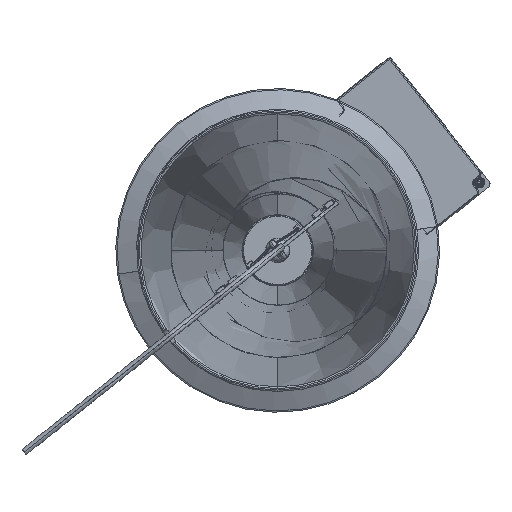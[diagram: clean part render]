
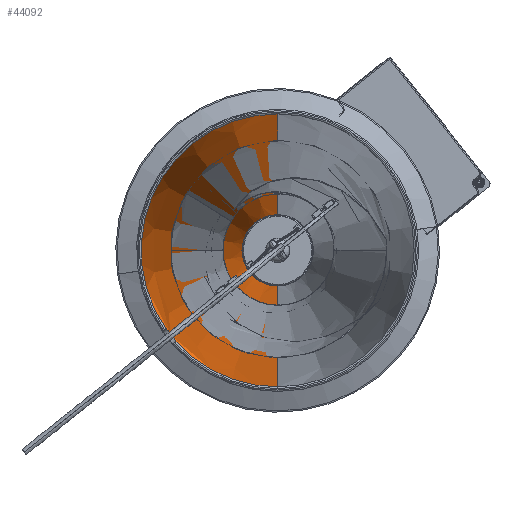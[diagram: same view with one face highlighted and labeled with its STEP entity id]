
A CAD part, front view. The second image highlights one B-rep face of the part: STEP entity #44092.
In plain terms, the highlighted conical face has half-angle 5.75 degrees and reference radius 17.712 mm.
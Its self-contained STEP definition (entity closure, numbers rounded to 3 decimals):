
#622 = CARTESIAN_POINT ( 'NONE',  ( -54.719, -347.137, -39.944 ) ) ;
#1126 = CARTESIAN_POINT ( 'NONE',  ( -53.953, -346.337, -40.84 ) ) ;
#1884 = CARTESIAN_POINT ( 'NONE',  ( -53.08, -346., -41.915 ) ) ;
#4074 = CARTESIAN_POINT ( 'NONE',  ( 0., -349.434, -67.979 ) ) ;
#4277 = CARTESIAN_POINT ( 'NONE',  ( 0., 149.77, 0. ) ) ;
#4768 = CARTESIAN_POINT ( 'NONE',  ( -55.538, -349.2, -39.16 ) ) ;
#4936 = EDGE_CURVE ( 'NONE', #14053, #18556, #7281, .T. ) ;
#5020 = LINE ( 'NONE', #8683, #31544 ) ;
#5201 = EDGE_CURVE ( 'NONE', #14053, #19736, #43659, .T. ) ;
#5204 = DIRECTION ( 'NONE',  ( 0., 0., 1. ) ) ;
#5735 = EDGE_CURVE ( 'NONE', #18556, #24325, #5020, .T. ) ;
#7281 = CIRCLE ( 'NONE', #13904, 17.792 ) ;
#7312 = AXIS2_PLACEMENT_3D ( 'NONE', #4277, #36045, #16262 ) ;
#8077 = CARTESIAN_POINT ( 'NONE',  ( 0., -349.434, 0. ) ) ;
#8683 = CARTESIAN_POINT ( 'NONE',  ( 0., 149.77, 17.712 ) ) ;
#9694 = CARTESIAN_POINT ( 'NONE',  ( -51.8, -346.441, -43.555 ) ) ;
#10201 = CARTESIAN_POINT ( 'NONE',  ( -50.777, -348.298, -45.025 ) ) ;
#10680 = ORIENTED_EDGE ( 'NONE', *, *, #5201, .F. ) ;
#11357 = ORIENTED_EDGE ( 'NONE', *, *, #19066, .T. ) ;
#12821 = CARTESIAN_POINT ( 'NONE',  ( -54.482, -346.825, -40.214 ) ) ;
#13904 = AXIS2_PLACEMENT_3D ( 'NONE', #21856, #40858, #5204 ) ;
#14053 = VERTEX_POINT ( 'NONE', #14168 ) ;
#14168 = CARTESIAN_POINT ( 'NONE',  ( 0., 148.974, -17.792 ) ) ;
#14365 = CARTESIAN_POINT ( 'NONE',  ( -52.782, -346., -42.288 ) ) ;
#16262 = DIRECTION ( 'NONE',  ( 0., 0., -1. ) ) ;
#16479 = CARTESIAN_POINT ( 'NONE',  ( 0., -349.434, 0. ) ) ;
#16523 = ORIENTED_EDGE ( 'NONE', *, *, #5735, .T. ) ;
#17404 = AXIS2_PLACEMENT_3D ( 'NONE', #8077, #40831, #33541 ) ;
#17500 = CARTESIAN_POINT ( 'NONE',  ( -50.668, -348.965, -45.249 ) ) ;
#18030 = CARTESIAN_POINT ( 'NONE',  ( -51.931, -346.336, -43.382 ) ) ;
#18264 = CARTESIAN_POINT ( 'NONE',  ( -50.896, -347.876, -44.827 ) ) ;
#18541 = CARTESIAN_POINT ( 'NONE',  ( -53.669, -346.17, -41.185 ) ) ;
#18556 = VERTEX_POINT ( 'NONE', #49389 ) ;
#19066 = EDGE_CURVE ( 'NONE', #22125, #29762, #46277, .T. ) ;
#19736 = VERTEX_POINT ( 'NONE', #4074 ) ;
#20395 = CARTESIAN_POINT ( 'NONE',  ( -55.293, -348.297, -39.348 ) ) ;
#20648 = CARTESIAN_POINT ( 'NONE',  ( -55.488, -348.967, -39.19 ) ) ;
#21413 = CARTESIAN_POINT ( 'NONE',  ( -52.204, -346.169, -43.026 ) ) ;
#21856 = CARTESIAN_POINT ( 'NONE',  ( 0., 148.974, 0. ) ) ;
#22125 = VERTEX_POINT ( 'NONE', #41366 ) ;
#22192 = CARTESIAN_POINT ( 'NONE',  ( -53.227, -346.021, -41.73 ) ) ;
#24325 = VERTEX_POINT ( 'NONE', #47925 ) ;
#24556 = DIRECTION ( 'NONE',  ( 0., 0., 1. ) ) ;
#25075 = DIRECTION ( 'NONE',  ( 0., -0.995, 0.1 ) ) ;
#26354 = CARTESIAN_POINT ( 'NONE',  ( -50.645, -349.434, -45.345 ) ) ;
#27285 = ORIENTED_EDGE ( 'NONE', *, *, #48353, .T. ) ;
#29481 = CARTESIAN_POINT ( 'NONE',  ( -50.968, -347.679, -44.715 ) ) ;
#29762 = VERTEX_POINT ( 'NONE', #44432 ) ;
#31322 = EDGE_CURVE ( 'NONE', #24325, #22125, #43187, .T. ) ;
#31544 = VECTOR ( 'NONE', #25075, 1000. ) ;
#32284 = VECTOR ( 'NONE', #40991, 1000. ) ;
#33541 = DIRECTION ( 'NONE',  ( 0., 0., 1. ) ) ;
#34424 = CARTESIAN_POINT ( 'NONE',  ( -51.555, -346.683, -43.882 ) ) ;
#36031 = CARTESIAN_POINT ( 'NONE',  ( -55.575, -349.434, -39.147 ) ) ;
#36045 = DIRECTION ( 'NONE',  ( 0., -1., 0. ) ) ;
#36283 = CARTESIAN_POINT ( 'NONE',  ( -54.83, -347.307, -39.822 ) ) ;
#36285 = AXIS2_PLACEMENT_3D ( 'NONE', #16479, #36513, #24556 ) ;
#36513 = DIRECTION ( 'NONE',  ( 0., -1., 0. ) ) ;
#37541 = CARTESIAN_POINT ( 'NONE',  ( -52.345, -346.106, -42.845 ) ) ;
#37812 = CARTESIAN_POINT ( 'NONE',  ( -52.633, -346.022, -42.477 ) ) ;
#38070 = CARTESIAN_POINT ( 'NONE',  ( -51.229, -347.137, -44.332 ) ) ;
#38079 = CONICAL_SURFACE ( 'NONE', #7312, 17.712, 0.1 ) ;
#39931 = FACE_OUTER_BOUND ( 'NONE', #47070, .T. ) ;
#40174 = CARTESIAN_POINT ( 'NONE',  ( -55.034, -347.679, -39.602 ) ) ;
#40421 = CARTESIAN_POINT ( 'NONE',  ( -55.128, -347.88, -39.506 ) ) ;
#40661 = CARTESIAN_POINT ( 'NONE',  ( -54.09, -346.44, -40.676 ) ) ;
#40831 = DIRECTION ( 'NONE',  ( 0., -1., 0. ) ) ;
#40858 = DIRECTION ( 'NONE',  ( 0., 1., 0. ) ) ;
#40991 = DIRECTION ( 'NONE',  ( 0., -0.995, -0.1 ) ) ;
#41366 = CARTESIAN_POINT ( 'NONE',  ( -55.575, -349.434, -39.147 ) ) ;
#41964 = CARTESIAN_POINT ( 'NONE',  ( -53.522, -346.106, -41.366 ) ) ;
#43187 = CIRCLE ( 'NONE', #17404, 67.979 ) ;
#43659 = LINE ( 'NONE', #44415, #32284 ) ;
#43781 = ORIENTED_EDGE ( 'NONE', *, *, #31322, .T. ) ;
#44085 = CARTESIAN_POINT ( 'NONE',  ( -55.365, -348.514, -39.284 ) ) ;
#44092 = ADVANCED_FACE ( 'NONE', ( #39931 ), #38079, .F. ) ;
#44415 = CARTESIAN_POINT ( 'NONE',  ( 0., 149.77, -17.712 ) ) ;
#44432 = CARTESIAN_POINT ( 'NONE',  ( -50.645, -349.434, -45.345 ) ) ;
#44605 = CARTESIAN_POINT ( 'NONE',  ( -54.354, -346.683, -40.363 ) ) ;
#44759 = ORIENTED_EDGE ( 'NONE', *, *, #4936, .T. ) ;
#46139 = CARTESIAN_POINT ( 'NONE',  ( -51.134, -347.309, -44.468 ) ) ;
#46277 = B_SPLINE_CURVE_WITH_KNOTS ( 'NONE', 3,
 ( #36031, #4768, #20648, #44085, #20395, #40421, #40174, #36283, #622, #12821, #44605, #40661, #1126, #18541, #41964, #22192, #1884, #14365, #37812, #37541, #21413, #18030, #9694, #34424, #49532, #38070, #46139, #29481, #18264, #10201, #51035, #17500, #47110, #26354 ),
 .UNSPECIFIED., .F., .F.,
 ( 4, 2, 2, 2, 2, 2, 2, 2, 2, 2, 2, 2, 2, 2, 2, 2, 4 ),
 ( 0.001, 0.002, 0.002, 0.003, 0.004, 0.004, 0.005, 0.006, 0.006, 0.007, 0.008, 0.009, 0.009, 0.01, 0.011, 0.011, 0.012 ),
 .UNSPECIFIED. ) ;
#47070 = EDGE_LOOP ( 'NONE', ( #44759, #16523, #43781, #11357, #27285, #10680 ) ) ;
#47110 = CARTESIAN_POINT ( 'NONE',  ( -50.649, -349.198, -45.305 ) ) ;
#47925 = CARTESIAN_POINT ( 'NONE',  ( 0., -349.434, 67.979 ) ) ;
#48353 = EDGE_CURVE ( 'NONE', #29762, #19736, #50446, .T. ) ;
#49389 = CARTESIAN_POINT ( 'NONE',  ( 0., 148.974, 17.792 ) ) ;
#49532 = CARTESIAN_POINT ( 'NONE',  ( -51.441, -346.822, -44.037 ) ) ;
#50446 = CIRCLE ( 'NONE', #36285, 67.979 ) ;
#51035 = CARTESIAN_POINT ( 'NONE',  ( -50.731, -348.516, -45.11 ) ) ;
